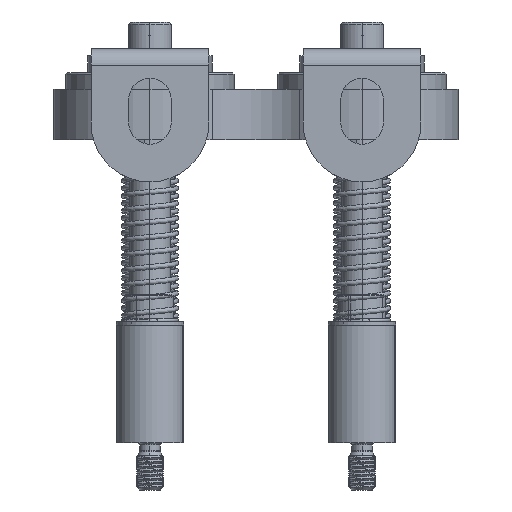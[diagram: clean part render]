
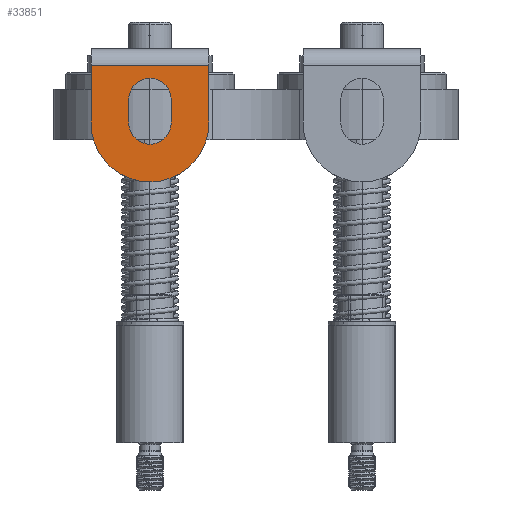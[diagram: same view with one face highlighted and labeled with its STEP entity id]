
A CAD part, left-side view. The second image highlights one B-rep face of the part: STEP entity #33851.
In plain terms, the highlighted planar face has unit normal (-1, 0, 0).
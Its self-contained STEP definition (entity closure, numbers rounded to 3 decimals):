
#139 = VERTEX_POINT ( 'NONE', #34233 ) ;
#216 = ORIENTED_EDGE ( 'NONE', *, *, #15546, .F. ) ;
#365 = DIRECTION ( 'NONE',  ( 0., 0., 1. ) ) ;
#1007 = AXIS2_PLACEMENT_3D ( 'NONE', #6464, #45011, #46048 ) ;
#2226 = CARTESIAN_POINT ( 'NONE',  ( -401.5, 49., 5. ) ) ;
#2413 = CARTESIAN_POINT ( 'NONE',  ( -401.5, 25.2, 5. ) ) ;
#2468 = DIRECTION ( 'NONE',  ( 0., 0., -1. ) ) ;
#3455 = VERTEX_POINT ( 'NONE', #19458 ) ;
#4233 = VERTEX_POINT ( 'NONE', #39425 ) ;
#5883 = CIRCLE ( 'NONE', #34976, 17.5 ) ;
#6246 = VERTEX_POINT ( 'NONE', #27297 ) ;
#6280 = CARTESIAN_POINT ( 'NONE',  ( -401.5, 37.8, 12. ) ) ;
#6464 = CARTESIAN_POINT ( 'NONE',  ( -401.5, 31.5, 5. ) ) ;
#6561 = ORIENTED_EDGE ( 'NONE', *, *, #31874, .F. ) ;
#6881 = CIRCLE ( 'NONE', #42635, 6.3 ) ;
#7027 = EDGE_CURVE ( 'NONE', #28193, #4233, #14431, .T. ) ;
#7529 = EDGE_CURVE ( 'NONE', #19348, #23085, #10993, .T. ) ;
#9096 = FACE_OUTER_BOUND ( 'NONE', #35057, .T. ) ;
#10993 = CIRCLE ( 'NONE', #1007, 17.5 ) ;
#12665 = VECTOR ( 'NONE', #46189, 1000. ) ;
#13435 = EDGE_CURVE ( 'NONE', #15480, #16325, #30938, .T. ) ;
#14044 = FACE_BOUND ( 'NONE', #24371, .T. ) ;
#14431 = LINE ( 'NONE', #30292, #12665 ) ;
#14826 = DIRECTION ( 'NONE',  ( 0., 1., 0. ) ) ;
#15480 = VERTEX_POINT ( 'NONE', #37168 ) ;
#15546 = EDGE_CURVE ( 'NONE', #4233, #3455, #6881, .T. ) ;
#16047 = ORIENTED_EDGE ( 'NONE', *, *, #37452, .T. ) ;
#16325 = VERTEX_POINT ( 'NONE', #17460 ) ;
#16955 = EDGE_CURVE ( 'NONE', #16325, #19348, #37888, .T. ) ;
#17432 = DIRECTION ( 'NONE',  ( -1., 0., 0. ) ) ;
#17460 = CARTESIAN_POINT ( 'NONE',  ( -401.5, 49., 22. ) ) ;
#18516 = DIRECTION ( 'NONE',  ( 0., 0., -1. ) ) ;
#19030 = DIRECTION ( 'NONE',  ( 0., 0., 1. ) ) ;
#19348 = VERTEX_POINT ( 'NONE', #25589 ) ;
#19458 = CARTESIAN_POINT ( 'NONE',  ( -401.5, 31.5, 18.3 ) ) ;
#19666 = LINE ( 'NONE', #31869, #31890 ) ;
#21104 = VECTOR ( 'NONE', #18516, 1000. ) ;
#21596 = CARTESIAN_POINT ( 'NONE',  ( -401.5, 31.5, 5. ) ) ;
#22053 = CIRCLE ( 'NONE', #28686, 6.3 ) ;
#22525 = AXIS2_PLACEMENT_3D ( 'NONE', #21596, #17432, #45294 ) ;
#22580 = ORIENTED_EDGE ( 'NONE', *, *, #16955, .T. ) ;
#22839 = ORIENTED_EDGE ( 'NONE', *, *, #27537, .T. ) ;
#23085 = VERTEX_POINT ( 'NONE', #51186 ) ;
#24141 = DIRECTION ( 'NONE',  ( 0., 0., 1. ) ) ;
#24371 = EDGE_LOOP ( 'NONE', ( #216, #41247, #33055, #6561, #40808 ) ) ;
#25584 = EDGE_CURVE ( 'NONE', #139, #28193, #37431, .T. ) ;
#25589 = CARTESIAN_POINT ( 'NONE',  ( -401.5, 49., 5. ) ) ;
#25760 = PLANE ( 'NONE',  #22525 ) ;
#26495 = DIRECTION ( 'NONE',  ( -1., 0., 0. ) ) ;
#26582 = LINE ( 'NONE', #6280, #21104 ) ;
#26848 = CARTESIAN_POINT ( 'NONE',  ( -401.5, 31.5, 5. ) ) ;
#27297 = CARTESIAN_POINT ( 'NONE',  ( -401.5, 14., 5. ) ) ;
#27537 = EDGE_CURVE ( 'NONE', #6246, #15480, #19666, .T. ) ;
#28193 = VERTEX_POINT ( 'NONE', #2413 ) ;
#28686 = AXIS2_PLACEMENT_3D ( 'NONE', #44089, #40668, #48226 ) ;
#28699 = ORIENTED_EDGE ( 'NONE', *, *, #7529, .T. ) ;
#30292 = CARTESIAN_POINT ( 'NONE',  ( -401.5, 25.2, 12. ) ) ;
#30938 = LINE ( 'NONE', #46833, #40861 ) ;
#31869 = CARTESIAN_POINT ( 'NONE',  ( -401.5, 14., 25. ) ) ;
#31874 = EDGE_CURVE ( 'NONE', #34207, #139, #26582, .T. ) ;
#31890 = VECTOR ( 'NONE', #365, 1000. ) ;
#32179 = CARTESIAN_POINT ( 'NONE',  ( -401.5, 31.5, 5. ) ) ;
#33055 = ORIENTED_EDGE ( 'NONE', *, *, #25584, .F. ) ;
#33851 = ADVANCED_FACE ( 'NONE', ( #14044, #9096 ), #25760, .T. ) ;
#34207 = VERTEX_POINT ( 'NONE', #50976 ) ;
#34233 = CARTESIAN_POINT ( 'NONE',  ( -401.5, 37.8, 5. ) ) ;
#34292 = CARTESIAN_POINT ( 'NONE',  ( -401.5, 31.5, 12. ) ) ;
#34335 = VECTOR ( 'NONE', #2468, 1000. ) ;
#34891 = DIRECTION ( 'NONE',  ( -1., 0., 0. ) ) ;
#34976 = AXIS2_PLACEMENT_3D ( 'NONE', #26848, #34891, #19030 ) ;
#35057 = EDGE_LOOP ( 'NONE', ( #22839, #38066, #22580, #28699, #16047 ) ) ;
#35809 = AXIS2_PLACEMENT_3D ( 'NONE', #32179, #48056, #24141 ) ;
#37168 = CARTESIAN_POINT ( 'NONE',  ( -401.5, 14., 22. ) ) ;
#37431 = CIRCLE ( 'NONE', #35809, 6.3 ) ;
#37452 = EDGE_CURVE ( 'NONE', #23085, #6246, #5883, .T. ) ;
#37888 = LINE ( 'NONE', #2226, #34335 ) ;
#38066 = ORIENTED_EDGE ( 'NONE', *, *, #13435, .T. ) ;
#39425 = CARTESIAN_POINT ( 'NONE',  ( -401.5, 25.2, 12. ) ) ;
#40668 = DIRECTION ( 'NONE',  ( -1., 0., 0. ) ) ;
#40808 = ORIENTED_EDGE ( 'NONE', *, *, #46355, .F. ) ;
#40861 = VECTOR ( 'NONE', #14826, 1000. ) ;
#41247 = ORIENTED_EDGE ( 'NONE', *, *, #7027, .F. ) ;
#42370 = DIRECTION ( 'NONE',  ( 0., 0., 1. ) ) ;
#42635 = AXIS2_PLACEMENT_3D ( 'NONE', #34292, #26495, #42370 ) ;
#44089 = CARTESIAN_POINT ( 'NONE',  ( -401.5, 31.5, 12. ) ) ;
#45011 = DIRECTION ( 'NONE',  ( -1., 0., 0. ) ) ;
#45294 = DIRECTION ( 'NONE',  ( 0., 0., 1. ) ) ;
#46048 = DIRECTION ( 'NONE',  ( 0., 0., 1. ) ) ;
#46189 = DIRECTION ( 'NONE',  ( 0., 0., 1. ) ) ;
#46355 = EDGE_CURVE ( 'NONE', #3455, #34207, #22053, .T. ) ;
#46833 = CARTESIAN_POINT ( 'NONE',  ( -401.5, 31.5, 22. ) ) ;
#48056 = DIRECTION ( 'NONE',  ( -1., 0., 0. ) ) ;
#48226 = DIRECTION ( 'NONE',  ( 0., 0., 1. ) ) ;
#50976 = CARTESIAN_POINT ( 'NONE',  ( -401.5, 37.8, 12. ) ) ;
#51186 = CARTESIAN_POINT ( 'NONE',  ( -401.5, 31.5, -12.5 ) ) ;
